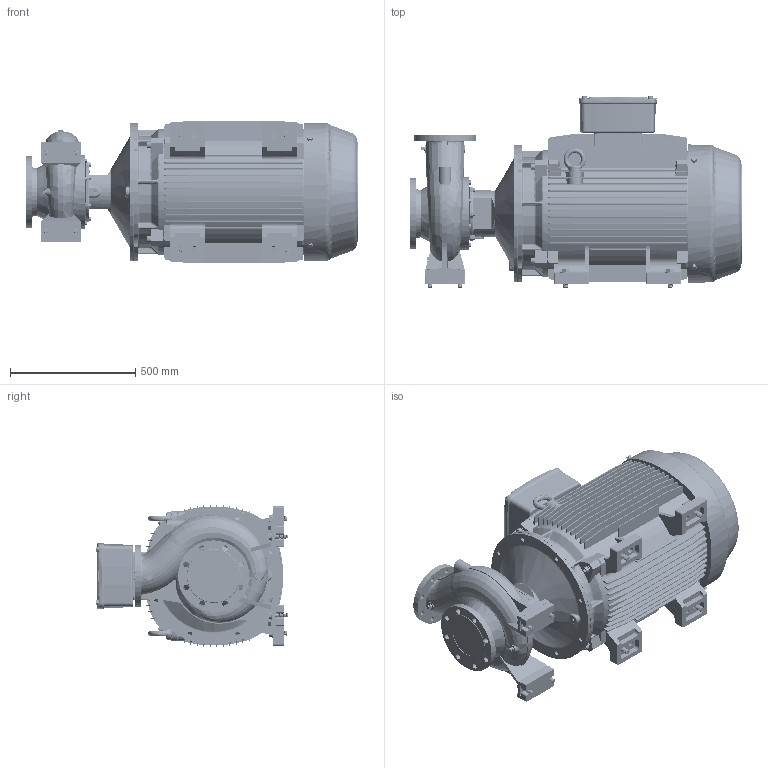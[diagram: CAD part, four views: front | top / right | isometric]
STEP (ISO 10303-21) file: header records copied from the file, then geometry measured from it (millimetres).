
FILE_DESCRIPTION (( 'STEP AP214' ), '1' );
FILE_NAME ('GSD2 125-200_90 & 110_(280SM)_W21.STEP', '2026-07-07T04:42:51', ( '' ), ( '' ), 'SwSTEP 2.0', 'SolidWorks 2024', '' );
FILE_SCHEMA (( 'AUTOMOTIVE_DESIGN' ));
Length unit declared in the file: millimetre
Products named in the file (10): Parametric bolt and washer_SFT-A365B; Parametric bolt_SFT-A411B; Parametric Flat Washer_M20; CGS11-5321_2_3_4_5_CGS11-5324; 125-200-280S_M_ﾃﾞﾌｫﾙﾄ; Parametric Flat Washer_M16; Parametric bolt and washer_SFT-A411B; GSD2  125-200_90 & 110_(280SM)_W21; Parametric bolt_SFT-A365B; 280S_M2P IE3_W21T_B35
Assembly tree (16 placements, depth 3):
  GSD2  125-200_90 & 110_(280SM)_W21
    125-200-280S_M_ﾃﾞﾌｫﾙﾄ
    280S_M2P IE3_W21T_B35
    CGS11-5321_2_3_4_5_CGS11-5324  x2
    Parametric bolt and washer_SFT-A365B  x4
      Parametric bolt_SFT-A365B
      Parametric Flat Washer_M16
    Parametric bolt and washer_SFT-A411B  x4
      Parametric bolt_SFT-A411B
      Parametric Flat Washer_M20
Bounding box: 1328 x 765.6 x 569.62 mm (x, y, z)
Volume: 235714287.1 mm3; surface area: 6296616.3 mm2
Topology: 21 solids, 28 shells, 3908 faces, 10313 edges, 6592 vertices
Faces by surface type: plane 1585, cylinder 1293, cone 504, bspline 252, torus 244, sphere 30
Entity records: 160733 total; most frequent: CARTESIAN_POINT 78199, ORIENTED_EDGE 17954, DIRECTION 16595, EDGE_CURVE 8977, AXIS2_PLACEMENT_3D 6135, VERTEX_POINT 5735, LINE 4325, VECTOR 4325
